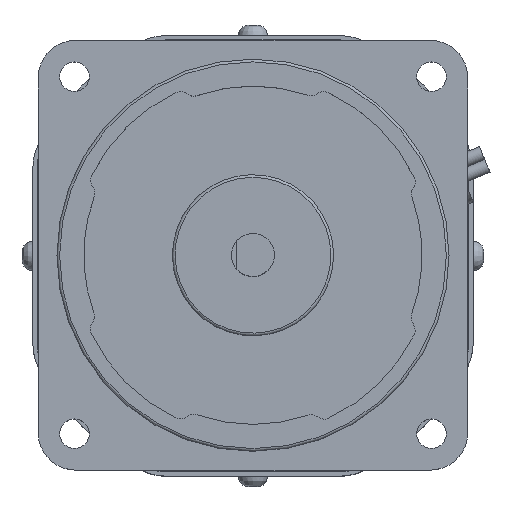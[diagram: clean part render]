
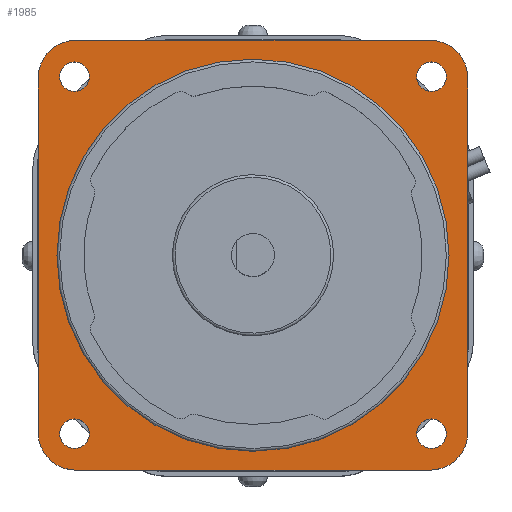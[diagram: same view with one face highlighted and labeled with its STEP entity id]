
A CAD part, top view. The second image highlights one B-rep face of the part: STEP entity #1985.
In plain terms, the highlighted planar face has unit normal (0, 0, 1).
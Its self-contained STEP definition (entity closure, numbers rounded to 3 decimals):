
#951=CARTESIAN_POINT('',(36.5,0.,6.));
#952=VERTEX_POINT('',#951);
#953=CARTESIAN_POINT('',(0.0,0.0,6.));
#954=DIRECTION('',(0.0,0.0,-1.0));
#955=DIRECTION('',(-1.0,0.0,0.0));
#956=AXIS2_PLACEMENT_3D('',#953,#954,#955);
#957=CIRCLE('',#956,36.5);
#958=EDGE_CURVE('',#952,#952,#957,.T.);
#1863=CARTESIAN_POINT('',(0.,0.0,6.));
#1864=DIRECTION('',(0.0,0.0,1.0));
#1865=DIRECTION('',(1.0,0.0,0.0));
#1866=AXIS2_PLACEMENT_3D('',#1863,#1864,#1865);
#1867=PLANE('',#1866);
#1868=CARTESIAN_POINT('',(33.,40.,6.));
#1869=VERTEX_POINT('',#1868);
#1870=CARTESIAN_POINT('',(40.,33.0,6.));
#1871=VERTEX_POINT('',#1870);
#1872=CARTESIAN_POINT('',(33.,33.0,6.));
#1873=DIRECTION('',(0.0,0.0,-1.0));
#1874=DIRECTION('',(-1.0,0.0,0.0));
#1875=AXIS2_PLACEMENT_3D('',#1872,#1873,#1874);
#1876=CIRCLE('',#1875,7.);
#1877=EDGE_CURVE('',#1869,#1871,#1876,.T.);
#1878=ORIENTED_EDGE('',*,*,#1877,.F.);
#1879=CARTESIAN_POINT('',(-33.,40.,6.));
#1880=VERTEX_POINT('',#1879);
#1881=CARTESIAN_POINT('',(-33.,40.,6.));
#1882=DIRECTION('',(1.0,0.0,0.0));
#1883=VECTOR('',#1882,66.);
#1884=LINE('',#1881,#1883);
#1885=EDGE_CURVE('',#1880,#1869,#1884,.T.);
#1886=ORIENTED_EDGE('',*,*,#1885,.F.);
#1887=CARTESIAN_POINT('',(-40.,33.0,6.));
#1888=VERTEX_POINT('',#1887);
#1889=CARTESIAN_POINT('',(-33.,33.0,6.));
#1890=DIRECTION('',(0.0,0.0,-1.0));
#1891=DIRECTION('',(0.0,-1.0,0.0));
#1892=AXIS2_PLACEMENT_3D('',#1889,#1890,#1891);
#1893=CIRCLE('',#1892,7.);
#1894=EDGE_CURVE('',#1888,#1880,#1893,.T.);
#1895=ORIENTED_EDGE('',*,*,#1894,.F.);
#1896=CARTESIAN_POINT('',(-40.,-33.0,6.));
#1897=VERTEX_POINT('',#1896);
#1898=CARTESIAN_POINT('',(-40.,-33.0,6.));
#1899=DIRECTION('',(0.0,1.0,0.0));
#1900=VECTOR('',#1899,66.0);
#1901=LINE('',#1898,#1900);
#1902=EDGE_CURVE('',#1897,#1888,#1901,.T.);
#1903=ORIENTED_EDGE('',*,*,#1902,.F.);
#1904=CARTESIAN_POINT('',(-33.,-40.,6.));
#1905=VERTEX_POINT('',#1904);
#1906=CARTESIAN_POINT('',(-33.,-33.0,6.));
#1907=DIRECTION('',(0.0,0.0,-1.0));
#1908=DIRECTION('',(1.0,0.0,0.0));
#1909=AXIS2_PLACEMENT_3D('',#1906,#1907,#1908);
#1910=CIRCLE('',#1909,7.);
#1911=EDGE_CURVE('',#1905,#1897,#1910,.T.);
#1912=ORIENTED_EDGE('',*,*,#1911,.F.);
#1913=CARTESIAN_POINT('',(33.,-40.,6.));
#1914=VERTEX_POINT('',#1913);
#1915=CARTESIAN_POINT('',(33.,-40.,6.));
#1916=DIRECTION('',(-1.0,0.0,0.0));
#1917=VECTOR('',#1916,66.);
#1918=LINE('',#1915,#1917);
#1919=EDGE_CURVE('',#1914,#1905,#1918,.T.);
#1920=ORIENTED_EDGE('',*,*,#1919,.F.);
#1921=CARTESIAN_POINT('',(40.,-33.0,6.));
#1922=VERTEX_POINT('',#1921);
#1923=CARTESIAN_POINT('',(33.,-33.0,6.));
#1924=DIRECTION('',(0.0,0.0,-1.0));
#1925=DIRECTION('',(0.0,1.0,0.0));
#1926=AXIS2_PLACEMENT_3D('',#1923,#1924,#1925);
#1927=CIRCLE('',#1926,7.);
#1928=EDGE_CURVE('',#1922,#1914,#1927,.T.);
#1929=ORIENTED_EDGE('',*,*,#1928,.F.);
#1930=CARTESIAN_POINT('',(40.,33.0,6.));
#1931=DIRECTION('',(0.0,-1.0,0.0));
#1932=VECTOR('',#1931,66.0);
#1933=LINE('',#1930,#1932);
#1934=EDGE_CURVE('',#1871,#1922,#1933,.T.);
#1935=ORIENTED_EDGE('',*,*,#1934,.F.);
#1936=EDGE_LOOP('',(#1878,#1886,#1895,#1903,#1912,#1920,#1929,#1935));
#1937=FACE_OUTER_BOUND('',#1936,.T.);
#1938=CARTESIAN_POINT('',(35.984,33.234,6.));
#1939=VERTEX_POINT('',#1938);
#1940=CARTESIAN_POINT('',(33.234,33.234,6.));
#1941=DIRECTION('',(0.0,0.0,-1.0));
#1942=DIRECTION('',(-1.0,0.0,0.0));
#1943=AXIS2_PLACEMENT_3D('',#1940,#1941,#1942);
#1944=CIRCLE('',#1943,2.75);
#1945=EDGE_CURVE('',#1939,#1939,#1944,.T.);
#1946=ORIENTED_EDGE('',*,*,#1945,.T.);
#1947=EDGE_LOOP('',(#1946));
#1948=FACE_BOUND('',#1947,.T.);
#1949=CARTESIAN_POINT('',(35.984,-33.234,6.));
#1950=VERTEX_POINT('',#1949);
#1951=CARTESIAN_POINT('',(33.234,-33.234,6.));
#1952=DIRECTION('',(0.0,0.0,-1.0));
#1953=DIRECTION('',(-1.0,0.0,0.0));
#1954=AXIS2_PLACEMENT_3D('',#1951,#1952,#1953);
#1955=CIRCLE('',#1954,2.75);
#1956=EDGE_CURVE('',#1950,#1950,#1955,.T.);
#1957=ORIENTED_EDGE('',*,*,#1956,.T.);
#1958=EDGE_LOOP('',(#1957));
#1959=FACE_BOUND('',#1958,.T.);
#1960=CARTESIAN_POINT('',(-30.484,-33.234,6.));
#1961=VERTEX_POINT('',#1960);
#1962=CARTESIAN_POINT('',(-33.234,-33.234,6.));
#1963=DIRECTION('',(0.0,0.0,-1.0));
#1964=DIRECTION('',(-1.0,0.0,0.0));
#1965=AXIS2_PLACEMENT_3D('',#1962,#1963,#1964);
#1966=CIRCLE('',#1965,2.75);
#1967=EDGE_CURVE('',#1961,#1961,#1966,.T.);
#1968=ORIENTED_EDGE('',*,*,#1967,.T.);
#1969=EDGE_LOOP('',(#1968));
#1970=FACE_BOUND('',#1969,.T.);
#1971=CARTESIAN_POINT('',(-30.484,33.234,6.));
#1972=VERTEX_POINT('',#1971);
#1973=CARTESIAN_POINT('',(-33.234,33.234,6.));
#1974=DIRECTION('',(0.0,0.0,-1.0));
#1975=DIRECTION('',(-1.0,0.0,0.0));
#1976=AXIS2_PLACEMENT_3D('',#1973,#1974,#1975);
#1977=CIRCLE('',#1976,2.75);
#1978=EDGE_CURVE('',#1972,#1972,#1977,.T.);
#1979=ORIENTED_EDGE('',*,*,#1978,.T.);
#1980=EDGE_LOOP('',(#1979));
#1981=FACE_BOUND('',#1980,.T.);
#1982=ORIENTED_EDGE('',*,*,#958,.T.);
#1983=EDGE_LOOP('',(#1982));
#1984=FACE_BOUND('',#1983,.T.);
#1985=ADVANCED_FACE('',(#1937,#1948,#1959,#1970,#1981,#1984),#1867,.T.);
